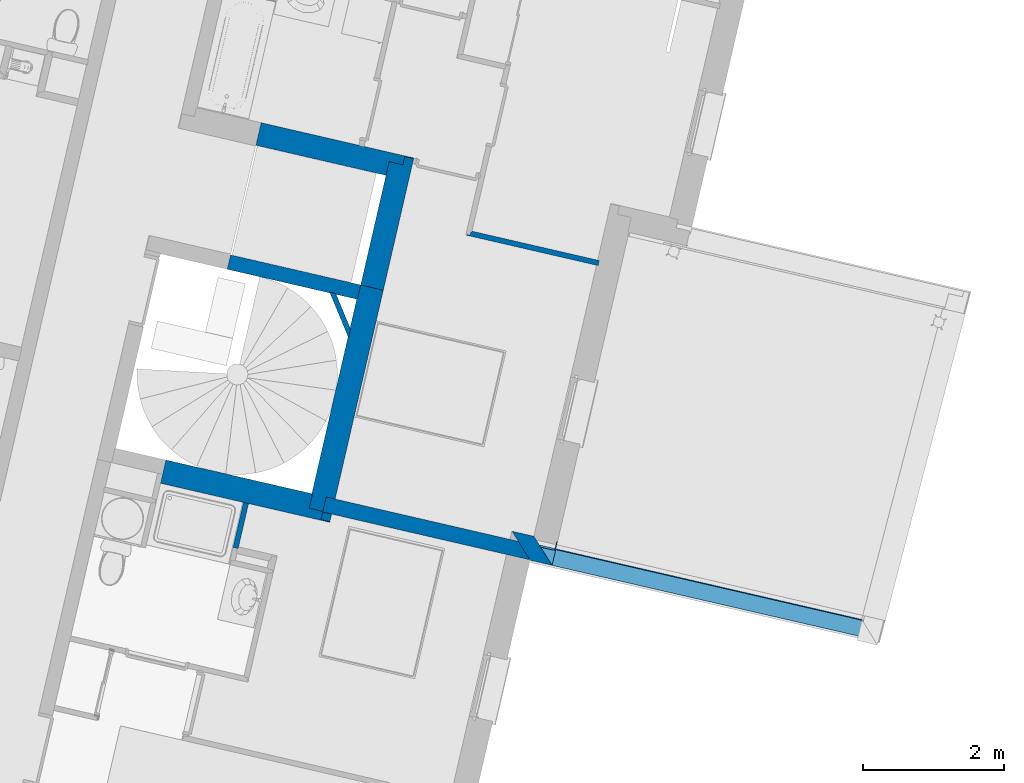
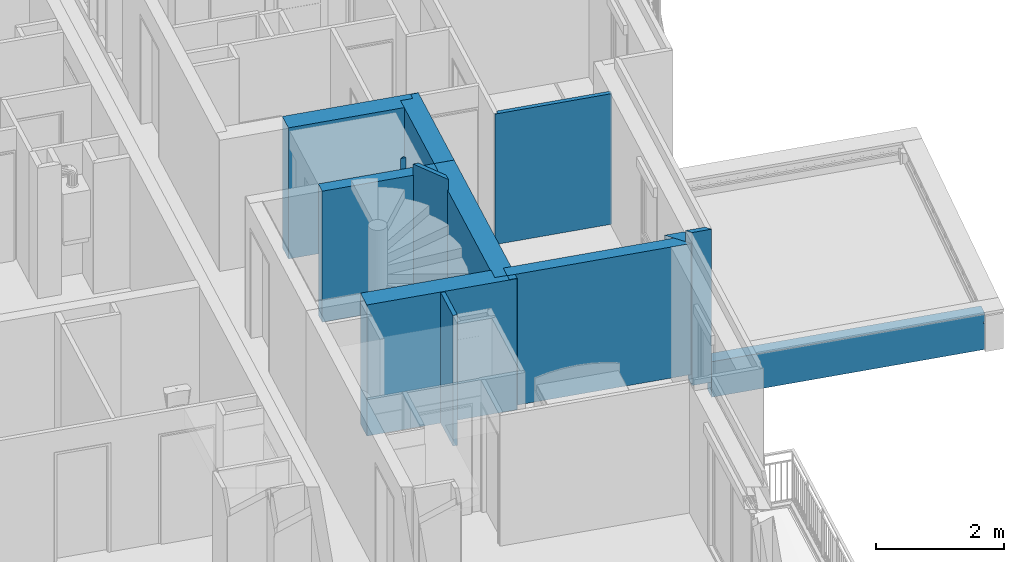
# One storey, part 47 of 90: 11 walls.
"""IFC2X3 building model written with IfcOpenShell, lengths in metres."""

import ifcopenshell
import ifcopenshell.guid

model = None  # the IFC model being written
_history = None  # IfcOwnerHistory: only IFC2X3 demands one
_inside = {}  # id of a spatial element -> (the spatial element, [elements in it])
_under = {}  # id of a project, library or spatial element -> (it, [spatial elements below it])
_declared = {}  # id of a project -> (the project, [libraries it declares])
_typed = {}  # id of a type object -> (the type object, [elements of that type])
_made_of = {}  # id of a material, layer set ... -> (it, [elements and type objects made of it])


def new_model(schema):
    """Start an empty IFC model of exactly this schema.

    Asked for "IFC4X3", IfcOpenShell would pick the latest addendum, in which some entities
    have other attributes; the version numbers below select the first issue.
    IFC2X3 requires an IfcOwnerHistory on every rooted entity: one is made here for all.
    """
    global model, _history
    if schema == "IFC4X3":
        model = ifcopenshell.file(schema_version=(4, 3, 0, 0))
    else:
        model = ifcopenshell.file(schema=schema)
    _inside.clear()
    _under.clear()
    _declared.clear()
    _typed.clear()
    _made_of.clear()
    _history = None
    if model.schema == "IFC2X3":
        org = make("IfcOrganization", Name="unknown")
        user = make(
            "IfcPersonAndOrganization",
            ThePerson=make("IfcPerson", FamilyName="unknown"),
            TheOrganization=org,
        )
        app = make(
            "IfcApplication",
            ApplicationDeveloper=org,
            Version="unknown",
            ApplicationFullName="unknown",
            ApplicationIdentifier="unknown",
        )
        _history = make(
            "IfcOwnerHistory",
            OwningUser=user,
            OwningApplication=app,
            ChangeAction="ADDED",
            CreationDate=0,
        )
    return model


def make(cls, **values):
    """One entity of the class cls with the attributes given. An attribute that is None is left unset."""
    return model.create_entity(
        cls, **{name: value for name, value in values.items() if value is not None}
    )


def entity(cls, *values):
    """Any entity or typed value of the class cls, its attributes in the order of the schema. None: left unset."""
    e = model.create_entity(cls)
    for i, value in enumerate(values):
        if value is not None:
            e[i] = value
    return e


def rooted(cls, **values):
    """An entity with a GlobalId (a new one), such as an element, a storey or a relation."""
    return make(cls, GlobalId=ifcopenshell.guid.new(), OwnerHistory=_history, **values)


def si_unit(unit_type, name, prefix=None):
    """IfcSIUnit, for example si_unit("LENGTHUNIT", "METRE", prefix="MILLI")."""
    return make("IfcSIUnit", UnitType=unit_type, Prefix=prefix, Name=name)


def converted_unit(unit_type, name, factor, base, dimensions=None, offset=None):
    """IfcConversionBasedUnit, such as the inch: factor (a typed value) times the base unit."""
    return make(
        "IfcConversionBasedUnit"
        if offset is None
        else "IfcConversionBasedUnitWithOffset",
        ConversionOffset=offset,
        Dimensions=None
        if dimensions is None
        else entity("IfcDimensionalExponents", *dimensions),
        UnitType=unit_type,
        Name=name,
        ConversionFactor=make(
            "IfcMeasureWithUnit", ValueComponent=factor, UnitComponent=base
        ),
    )


def derived_unit(unit_type, elements):
    """IfcDerivedUnit: a product of units, each with its exponent."""
    return make(
        "IfcDerivedUnit",
        Elements=[
            make("IfcDerivedUnitElement", Unit=unit, Exponent=power)
            for unit, power in elements
        ],
        UnitType=unit_type,
    )


def money_unit(currency):
    """IfcMonetaryUnit."""
    return make("IfcMonetaryUnit", Currency=currency)


def assignment(units):
    """IfcUnitAssignment: the units of a project."""
    return None if units is None else make("IfcUnitAssignment", Units=units)


def point(xyz):
    """IfcCartesianPoint."""
    return None if xyz is None else make("IfcCartesianPoint", Coordinates=xyz)


def direction(xyz):
    """IfcDirection."""
    return None if xyz is None else make("IfcDirection", DirectionRatios=xyz)


def frame(location, z_axis=None, x_axis=None):
    """IfcAxis2Placement3D, a coordinate frame: its origin and axes. An axis left out is left unset."""
    return make(
        "IfcAxis2Placement3D",
        Location=point(location),
        Axis=direction(z_axis),
        RefDirection=direction(x_axis),
    )


def origin_with_axes():
    """The frame at (0, 0, 0) with the z axis (0, 0, 1) and the x axis (1, 0, 0) written out."""
    return frame((0.0, 0.0, 0.0), z_axis=(0.0, 0.0, 1.0), x_axis=(1.0, 0.0, 0.0))


def place(relative_to, where):
    """IfcLocalPlacement: puts the frame where relative to a parent placement (None: the world)."""
    return make(
        "IfcLocalPlacement", PlacementRelTo=relative_to, RelativePlacement=where
    )


def context(
    kind, dimensions, precision=None, world=None, true_north=None, identifier=None
):
    """IfcGeometricRepresentationContext, for example the 3D "Model" context."""
    return make(
        "IfcGeometricRepresentationContext",
        ContextIdentifier=identifier,
        ContextType=kind,
        CoordinateSpaceDimension=dimensions,
        Precision=precision,
        WorldCoordinateSystem=world,
        TrueNorth=true_north,
    )


def subcontext(parent, identifier, kind, view, scale=None):
    """IfcGeometricRepresentationSubContext, for example "Body" below "Model"."""
    return make(
        "IfcGeometricRepresentationSubContext",
        ContextIdentifier=identifier,
        ContextType=kind,
        ParentContext=parent,
        TargetScale=scale,
        TargetView=view,
    )


def project(units=None, contexts=None):
    """IfcProject with its units and contexts."""
    return rooted(
        "IfcProject",
        Name="project",
        RepresentationContexts=contexts,
        UnitsInContext=assignment(units),
    )


def spatial(cls, under=None, at=None, **own):
    """A site, building, storey or space (cls), placed at a placement, below another one or the project."""
    s = rooted(cls, ObjectPlacement=at, **own)
    if under is not None:
        _under.setdefault(under.id(), (under, []))[1].append(s)
    return s


def faces_of(points, faces, orient=None, outer=None):
    """IfcFace entities. A face is a list of loops; a loop is a list of indices into points, from 0.

    orient and outer hold one flag for each loop. By default every Orientation is true, the
    first loop of a face is its IfcFaceOuterBound and the others are IfcFaceBound.
    """
    made = []
    for i, loops in enumerate(faces):
        bounds = []
        for j, loop in enumerate(loops):
            is_outer = j == 0 if outer is None else outer[i][j]
            bounds.append(
                make(
                    "IfcFaceOuterBound" if is_outer else "IfcFaceBound",
                    Bound=make("IfcPolyLoop", Polygon=[points[k] for k in loop]),
                    Orientation=True if orient is None else orient[i][j],
                )
            )
        made.append(make("IfcFace", Bounds=bounds))
    return made


def faceted_brep(points, faces, orient=None, outer=None, voids=None):
    """IfcFacetedBrep: a solid bounded by flat faces; with voids (closed shells), ...WithVoids."""
    shared = [point(p) for p in points]
    hull = make("IfcClosedShell", CfsFaces=faces_of(shared, faces, orient, outer))
    if voids is None:
        return make("IfcFacetedBrep", Outer=hull)
    return make(
        "IfcFacetedBrepWithVoids",
        Outer=hull,
        Voids=[
            make(cls, CfsFaces=faces_of(shared, fs, o, b)) for cls, fs, o, b in voids
        ],
    )


def shape(context_of_items, identifier, shape_type, items):
    """IfcShapeRepresentation: the items that make up one representation, for example the "Body"."""
    return make(
        "IfcShapeRepresentation",
        ContextOfItems=context_of_items,
        RepresentationIdentifier=identifier,
        RepresentationType=shape_type,
        Items=items,
    )


def material(Name=None, Category=None):
    """IfcMaterial."""
    return make("IfcMaterial", Name=Name, Category=Category)


def material_list(materials):
    """IfcMaterialList."""
    return make("IfcMaterialList", Materials=materials)


def made_of(thing, what):
    """Note that an element or type object is made of a material, layer set ...; save() writes the relation."""
    if what is not None:
        _made_of.setdefault(what.id(), (what, []))[1].append(thing)
    return thing


def type_object(cls, material=None, **own):
    """A type object (cls), such as IfcWallType, which elements share."""
    return made_of(rooted(cls, **own), material)


def element(
    cls,
    number,
    at=None,
    inside=None,
    cuts=None,
    type_object=None,
    material=None,
    context=None,
    identifier="Body",
    shape_type=None,
    held_by="IfcProductDefinitionShape",
    body=None,
    shapes=None,
    **own,
):
    """One element of the class cls, such as IfcWall. Its Tag is "e" and its number.

    at: its placement. inside: the storey or other place that contains it. cuts: it is an
    opening in that element (IfcRelVoidsElement). A single representation is given by context,
    identifier, shape_type and body (its items); several are given by shapes. held_by: the class
    of the entity that holds the representations. save() writes the other relations.
    """
    e = rooted(cls, Tag="e%d" % number, ObjectPlacement=at, **own)
    if body is not None:
        shapes = [shape(context, identifier, shape_type, body)]
    if shapes is not None:
        e.Representation = make(held_by, Representations=shapes)
    if inside is not None:
        _inside.setdefault(inside.id(), (inside, []))[1].append(e)
    if cuts is not None:
        rooted(
            "IfcRelVoidsElement", RelatingBuildingElement=cuts, RelatedOpeningElement=e
        )
    if type_object is not None:
        _typed.setdefault(type_object.id(), (type_object, []))[1].append(e)
    return made_of(e, material)


def aggregate(whole, parts):
    """IfcRelAggregates: a whole, such as a stair, and the parts it consists of."""
    return rooted("IfcRelAggregates", RelatingObject=whole, RelatedObjects=parts)


def save(model, path):
    """Write the relations noted so far, then the file.

    IfcRelAggregates (storeys below a building ...), IfcRelContainedInSpatialStructure (elements
    in a storey), IfcRelDefinesByType, IfcRelAssociatesMaterial and IfcRelDeclares: one each for
    every whole, place, type object, material and project.
    """
    for whole, parts in _under.values():
        aggregate(whole, parts)
    for where, things in _inside.values():
        rooted(
            "IfcRelContainedInSpatialStructure",
            RelatedElements=things,
            RelatingStructure=where,
        )
    for kind, things in _typed.values():
        rooted("IfcRelDefinesByType", RelatedObjects=things, RelatingType=kind)
    for what, things in _made_of.values():
        rooted("IfcRelAssociatesMaterial", RelatedObjects=things, RelatingMaterial=what)
    for by, libraries in _declared.values():
        rooted("IfcRelDeclares", RelatingContext=by, RelatedDefinitions=libraries)
    model.write(path)


model = new_model("IFC2X3")

# Units and contexts
model_context = context("Model", 3, precision=1e-05, world=origin_with_axes(), true_north=direction((0.0, 1.0)))
body_context = subcontext(model_context, "Body", "Model", "MODEL_VIEW")
ifc_project = project(units=[si_unit("LENGTHUNIT", "METRE"), si_unit("AREAUNIT", "SQUARE_METRE"), si_unit("VOLUMEUNIT", "CUBIC_METRE"), converted_unit("PLANEANGLEUNIT", "DEGREE", entity("IfcPlaneAngleMeasure", 0.0174532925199), si_unit("PLANEANGLEUNIT", "RADIAN"), dimensions=[0, 0, 0, 0, 0, 0, 0]), si_unit("SOLIDANGLEUNIT", "STERADIAN"), money_unit("EUR"), converted_unit("TIMEUNIT", "Year", entity("IfcTimeMeasure", 31556926.0), si_unit("TIMEUNIT", "SECOND"), dimensions=[0, 0, 1, 0, 0, 0, 0]), si_unit("MASSUNIT", "GRAM", prefix="KILO"), si_unit("THERMODYNAMICTEMPERATUREUNIT", "DEGREE_CELSIUS"), si_unit("LUMINOUSINTENSITYUNIT", "LUMEN"), si_unit("ENERGYUNIT", "JOULE", prefix="MEGA"), derived_unit("THERMALCONDUCTANCEUNIT", [(si_unit("POWERUNIT", "WATT"), 1), (si_unit("LENGTHUNIT", "METRE"), -1), (si_unit("THERMODYNAMICTEMPERATUREUNIT", "KELVIN"), -1)]), derived_unit("SPECIFICHEATCAPACITYUNIT", [(si_unit("ENERGYUNIT", "JOULE"), 1), (si_unit("MASSUNIT", "GRAM", prefix="KILO"), -1), (si_unit("THERMODYNAMICTEMPERATUREUNIT", "KELVIN"), -1)]), derived_unit("MASSDENSITYUNIT", [(si_unit("MASSUNIT", "GRAM", prefix="KILO"), 1), (si_unit("VOLUMEUNIT", "CUBIC_METRE"), -1)])], contexts=[model_context])

# Site, building, storey
site_placement = place(None, origin_with_axes())
site = spatial("IfcSite", under=ifc_project, at=site_placement, Name="Site", CompositionType="ELEMENT")
building_placement = place(site_placement, origin_with_axes())
building = spatial("IfcBuilding", under=site, at=building_placement, Name="Bâtiment", CompositionType="ELEMENT")
storey_placement = place(building_placement, frame((0.0, 0.0, 2.72), z_axis=(0.0, 0.0, 1.0), x_axis=(1.0, 0.0, 0.0)))
storey = spatial("IfcBuildingStorey", under=building, at=storey_placement, Name="R+1", CompositionType="ELEMENT", Elevation=2.72)

# Walls
ifc_material_1 = material(Name="Cloison - Carreaux de plâtre")
wall_type_1 = type_object("IfcWallType", Name="Cloison - Carreaux de plâtre 74", PredefinedType="USERDEFINED")
wall_1_placement = place(storey_placement, frame((-8.31029544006, -6.29006190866, 0.0), z_axis=(0.0, 0.0, 1.0), x_axis=(0.383112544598, -0.92370167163, 0.0)))
element("IfcWall", 1, at=wall_1_placement, inside=storey, type_object=wall_type_1, material=ifc_material_1, Name="Carreaux de plâtre 8cm", ObjectType="PARTITIONING", context=body_context, shape_type="Brep", body=[
    faceted_brep([(0.0, 0.074, 2.72), (1.50750967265e-10, -1.07617026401e-10, 2.72), (0.0528269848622, 0.074, 2.72), (0.0, 0.074, 2.51), (1.50750967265e-10, -1.07617026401e-10, 2.51), (0.0528269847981, 0.0739999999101, 2.51)], [[[0, 1, 2]], [[3, 4, 1, 0]], [[4, 5, 2, 1]], [[0, 2, 5, 3]], [[3, 5, 4]]]),
    faceted_brep([(0.298560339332, 0.074, 2.72), (0.844290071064, 0.0739999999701, 2.72), (0.844290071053, 0.074, 0.0), (0.298560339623, 0.074, 0.0), (0.245733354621, 0.0, 2.72), (0.947949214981, 0.0, 2.72), (0.947949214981, 0.0, 2.51), (0.947949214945, 0.0, 0.0), (0.245733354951, 0.0, 0.0)], [[[0, 1, 2, 3]], [[4, 5, 1, 0]], [[2, 1, 5, 6, 7]], [[2, 7, 8, 3]], [[8, 4, 0, 3]], [[7, 6, 5, 4, 8]]]),
])
ifc_material_2 = material(Name="Finition int - Plaque de plâtre")
ifc_material_3 = material(Name="Isolation - Laine de roche")
ifc_material_list_1 = material_list([ifc_material_2, ifc_material_3, ifc_material_2])
wall_type_2 = type_object("IfcWallType", Name="3 - Cloison 72mm Placostil 74", PredefinedType="USERDEFINED")
wall_2_placement = place(storey_placement, frame((-6.26296169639, -5.63237108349, 0.0), z_axis=(0.0, 0.0, 1.0), x_axis=(0.974387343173, -0.224876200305, 0.0)))
element("IfcWall", 2, at=wall_2_placement, inside=storey, type_object=wall_type_2, material=ifc_material_list_1, Name="Cloison Placostil 72/48", ObjectType="PARTITIONING", context=body_context, shape_type="Brep", body=[
    faceted_brep([(0.0740000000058, -0.013, 2.5), (1.93336082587, -0.013, 2.5), (1.93336082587, 0.0, 2.5), (0.074, 0.0, 2.5), (0.0740000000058, -0.013, 0.0), (1.93336082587, -0.013, 0.0), (1.93336082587, 0.0, 0.0), (0.074, 0.0, 0.0)], [[[0, 1, 2, 3]], [[4, 5, 1, 0]], [[2, 1, 5, 6]], [[3, 2, 6, 7]], [[4, 0, 3, 7]], [[7, 6, 5, 4]]]),
    faceted_brep([(0.061000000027, -0.061, 2.5), (1.93336082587, -0.061, 2.5), (1.93336082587, -0.013, 2.5), (0.0610000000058, -0.013, 2.5), (0.061000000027, -0.061, 0.0), (1.93336082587, -0.061, 0.0), (1.93336082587, -0.013, 0.0), (0.0610000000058, -0.013, 0.0)], [[[0, 1, 2, 3]], [[4, 5, 1, 0]], [[2, 1, 5, 6]], [[3, 2, 6, 7]], [[4, 0, 3, 7]], [[7, 6, 5, 4]]]),
    faceted_brep([(0.0130000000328, -0.074, 2.5), (1.93336082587, -0.074, 2.5), (1.93336082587, -0.061, 2.5), (0.013000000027, -0.061, 2.5), (0.0130000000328, -0.074, 0.0), (1.93336082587, -0.074, 0.0), (1.93336082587, -0.061, 0.0), (0.013000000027, -0.061, 0.0)], [[[0, 1, 2, 3]], [[4, 5, 1, 0]], [[2, 1, 5, 6]], [[3, 2, 6, 7]], [[4, 0, 3, 7]], [[7, 6, 5, 4]]]),
])
wall_3_placement = place(storey_placement, frame((-9.44213676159, -9.50795656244, 0.0), z_axis=(0.0, 0.0, 1.0), x_axis=(-0.224876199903, -0.974387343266, 0.0)))
element("IfcWall", 3, at=wall_3_placement, inside=storey, type_object=wall_type_2, material=ifc_material_list_1, Name="Cloison Placostil 72/48", ObjectType="PARTITIONING", context=body_context, shape_type="Brep", body=[
    faceted_brep([(0.0, 0.074, 0.0), (0.657000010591, 0.074, 0.0), (0.657000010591, 0.061, 0.0), (0.0, 0.061, 0.0), (0.0, 0.074, 2.5), (0.657000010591, 0.074, 2.5), (0.657000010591, 0.061, 2.5), (0.0, 0.061, 2.5)], [[[0, 1, 2, 3]], [[4, 5, 1, 0]], [[2, 1, 5, 6]], [[3, 2, 6, 7]], [[4, 0, 3, 7]], [[7, 6, 5, 4]]]),
    faceted_brep([(0.0, 0.061, 0.0), (0.657000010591, 0.061, 0.0), (0.657000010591, 0.013, 0.0), (0.0, 0.013, 0.0), (0.0, 0.061, 2.5), (0.657000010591, 0.061, 2.5), (0.657000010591, 0.013, 2.5), (0.0, 0.013, 2.5)], [[[0, 1, 2, 3]], [[4, 5, 1, 0]], [[2, 1, 5, 6]], [[3, 2, 6, 7]], [[4, 0, 3, 7]], [[7, 6, 5, 4]]]),
    faceted_brep([(0.0, 0.013, 0.0), (0.657000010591, 0.013, 0.0), (0.657000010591, 0.0, 0.0), (0.0, 0.0, 0.0), (0.0, 0.013, 2.5), (0.657000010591, 0.013, 2.5), (0.657000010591, 0.0, 2.5), (0.0, 0.0, 2.5)], [[[0, 1, 2, 3]], [[4, 5, 1, 0]], [[2, 1, 5, 6]], [[3, 2, 6, 7]], [[4, 0, 3, 7]], [[7, 6, 5, 4]]]),
])
ifc_material_4 = material(Name="Finition int - Enduit plâtre")
ifc_material_5 = material(Name="Béton")
ifc_material_list_2 = material_list([ifc_material_4, ifc_material_5, ifc_material_4])
wall_type_3 = type_object("IfcWallType", Name="2 - Murs Béton 20 + Enduit 2 Faces  220", PredefinedType="USERDEFINED")
wall_4_placement = place(storey_placement, frame((-5.37691703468, -10.3124051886, 0.0), z_axis=(0.0, 0.0, 1.0), x_axis=(-0.974387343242, 0.224876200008, 0.0)))
element("IfcWall", 4, at=wall_4_placement, inside=storey, type_object=wall_type_3, material=ifc_material_list_2, Name="M_Ext-009", ObjectType="SOLIDWALL", context=body_context, shape_type="Brep", body=[
    faceted_brep([(0.0, 0.0, 2.51), (3.01199999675, 0.0, 2.51), (3.01199999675, 0.01, 2.51), (0.0, 0.01, 2.51), (0.0, 0.0, 0.0), (3.01199999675, 0.0, 0.0), (3.01199999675, 0.01, 0.0), (0.0, 0.01, 0.0)], [[[0, 1, 2, 3]], [[4, 5, 1, 0]], [[2, 1, 5, 6]], [[3, 2, 6, 7]], [[4, 0, 3, 7]], [[7, 6, 5, 4]]]),
    faceted_brep([(0.0, -0.2, 2.51), (3.01199999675, -0.2, 2.51), (3.01199999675, 0.0, 2.51), (0.0, 0.0, 2.51), (0.0, -0.2, 0.0), (3.01199999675, -0.2, 0.0), (3.01199999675, 0.0, 0.0), (0.0, 0.0, 0.0)], [[[0, 1, 2, 3]], [[4, 5, 1, 0]], [[2, 1, 5, 6]], [[3, 2, 6, 7]], [[4, 0, 3, 7]], [[7, 6, 5, 4]]]),
    faceted_brep([(0.0, -0.21, 2.51), (3.01199999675, -0.21, 2.51), (3.01199999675, -0.2, 2.51), (0.0, -0.2, 2.51), (0.0, -0.21, 0.0), (3.01199999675, -0.21, 0.0), (3.01199999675, -0.2, 0.0), (0.0, -0.2, 0.0)], [[[0, 1, 2, 3]], [[4, 5, 1, 0]], [[2, 1, 5, 6]], [[3, 2, 6, 7]], [[4, 0, 3, 7]], [[7, 6, 5, 4]]]),
])
ifc_material_list_3 = material_list([ifc_material_4, ifc_material_5])
wall_type_4 = type_object("IfcWallType", Name="2 - Murs Béton 20 + Enduit 1 Face  210", PredefinedType="USERDEFINED")
wall_5_placement = place(storey_placement, frame((-7.77362621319, -6.41391833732, 0.0), z_axis=(0.0, 0.0, 1.0), x_axis=(-0.974387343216, 0.224876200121, 0.0)))
element("IfcWall", 5, at=wall_5_placement, inside=storey, type_object=wall_type_4, material=ifc_material_list_3, Name="M_Ext-009", ObjectType="SOLIDWALL", context=body_context, shape_type="Brep", body=[
    faceted_brep([(0.309940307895, 0.21, 2.51), (0.00999999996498, 0.21, 2.51), (0.00999999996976, 0.2, 2.51), (0.317079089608, 0.2, 2.51), (0.309940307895, 0.21, 0.0), (0.00999999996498, 0.21, 0.0), (0.00999999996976, 0.2, 0.0), (0.317079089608, 0.2, 0.0)], [[[0, 1, 2, 3]], [[4, 5, 1, 0]], [[5, 6, 2, 1]], [[3, 2, 6, 7]], [[4, 0, 3, 7]], [[7, 6, 5, 4]]]),
    faceted_brep([(1.90000000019, 0.21, 2.51), (0.400861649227, 0.21, 2.51), (0.408000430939, 0.2, 2.51), (1.90000000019, 0.2, 2.51), (1.90000000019, 0.21, 0.0), (0.400861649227, 0.21, 0.0), (0.408000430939, 0.2, 0.0), (1.90000000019, 0.2, 0.0)], [[[0, 1, 2, 3]], [[4, 5, 1, 0]], [[5, 6, 2, 1]], [[3, 2, 6, 7]], [[0, 3, 7, 4]], [[7, 6, 5, 4]]]),
    faceted_brep([(1.90000000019, 0.2, 2.51), (0.0, 0.2, 2.51), (0.0, 1.43974077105e-09, 2.51), (1.90000000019, 0.0, 2.51), (1.90000000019, 0.2, 0.0), (0.0, 0.2, 0.0), (0.0, 4.93002083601e-10, 0.0), (1.90000000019, 0.0, 0.0)], [[[0, 1, 2, 3]], [[4, 5, 1, 0]], [[6, 2, 1, 5]], [[3, 2, 6, 7]], [[0, 3, 7, 4]], [[7, 6, 5, 4]]]),
])
ifc_material_6 = material(Name="Isolation - Polystyrène extrudé")
ifc_material_list_4 = material_list([ifc_material_2, ifc_material_6, ifc_material_5, ifc_material_4])
wall_type_5 = type_object("IfcWallType", Name="2 - Murs Béton 20 + Isolant 120 + Enduit 1 Faces 340", PredefinedType="USERDEFINED")
wall_6_placement = place(storey_placement, frame((-7.77362621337, -6.41391833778, 0.0), z_axis=(0.0, 0.0, 1.0), x_axis=(-0.224876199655, -0.974387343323, 0.0)))
element("IfcWall", 6, at=wall_6_placement, inside=storey, type_object=wall_type_5, material=ifc_material_list_4, Name="M_Ext-008", ObjectType="SOLIDWALL", context=body_context, shape_type="Brep", body=[
    faceted_brep([(3.38999999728, 0.32, 0.0), (0.0, 0.32, 0.0), (0.0, 0.33, 0.0), (3.38999999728, 0.33, 0.0), (3.38999999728, 0.32, 2.51), (0.0, 0.32, 2.51), (0.0, 0.33, 2.51), (3.38999999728, 0.33, 2.51)], [[[0, 1, 2, 3]], [[4, 5, 1, 0]], [[1, 5, 6, 2]], [[3, 2, 6, 7]], [[7, 4, 0, 3]], [[7, 6, 5, 4]]]),
    faceted_brep([(3.37999999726, 0.2, 0.0), (0.0, 0.2, 0.0), (0.0, 0.32, 0.0), (3.37999999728, 0.32, 0.0), (3.37999999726, 0.2, 2.51), (0.0, 0.2, 2.51), (0.0, 0.32, 2.51), (3.37999999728, 0.32, 2.51)], [[[0, 1, 2, 3]], [[4, 5, 1, 0]], [[1, 5, 6, 2]], [[3, 2, 6, 7]], [[7, 4, 0, 3]], [[7, 6, 5, 4]]]),
    faceted_brep([(3.25999999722, 0.0, 0.0), (0.0, 0.0, 0.0), (0.0, 0.2, 0.0), (3.25999999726, 0.2, 0.0), (3.25999999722, 0.0, 2.51), (0.0, 0.0, 2.51), (0.0, 0.2, 2.51), (3.25999999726, 0.2, 2.51)], [[[0, 1, 2, 3]], [[4, 5, 1, 0]], [[1, 5, 6, 2]], [[3, 2, 6, 7]], [[7, 4, 0, 3]], [[7, 6, 5, 4]]]),
    faceted_brep([(0.644164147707, 0.0, 0.0), (0.199999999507, 0.0, 0.0), (0.199999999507, 0.0, 2.51), (0.644164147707, 0.0, 2.51), (0.630156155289, -0.01, 0.0), (0.199999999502, -0.01, 0.0), (0.199999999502, -0.01, 2.51), (0.630156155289, -0.01, 2.51)], [[[0, 1, 2, 3]], [[4, 5, 1, 0]], [[5, 6, 2, 1]], [[3, 2, 6, 7]], [[3, 7, 4, 0]], [[7, 6, 5, 4]]]),
    faceted_brep([(0.757518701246, -0.01, 0.0), (0.771526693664, 0.0, 0.0), (3.05999999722, 0.0, 0.0), (3.05999999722, -0.01, 0.0), (0.757518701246, -0.01, 2.51), (0.771526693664, 0.0, 2.51), (3.05999999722, 0.0, 2.51), (3.05999999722, -0.01, 2.51)], [[[0, 1, 2, 3]], [[1, 0, 4, 5]], [[1, 5, 6, 2]], [[7, 3, 2, 6]], [[4, 0, 3, 7]], [[5, 4, 7, 6]]]),
])
wall_7_placement = place(storey_placement, frame((-8.46174738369, -9.39554360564, 0.0), z_axis=(0.0, 0.0, 1.0), x_axis=(-0.974387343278, 0.224876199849, 0.0)))
element("IfcWall", 7, at=wall_7_placement, inside=storey, type_object=wall_type_5, material=ifc_material_list_4, Name="M_Ext-008", ObjectType="SOLIDWALL", context=body_context, shape_type="Brep", body=[
    faceted_brep([(-0.320000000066, 0.33, 0.0), (2.13999999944, 0.33, 0.0), (2.13999999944, 0.32, 0.0), (-0.320000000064, 0.32, 0.0), (-0.320000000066, 0.33, 2.51), (2.13999999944, 0.33, 2.51), (2.13999999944, 0.32, 2.51), (-0.320000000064, 0.32, 2.51)], [[[0, 1, 2, 3]], [[4, 5, 1, 0]], [[2, 1, 5, 6]], [[3, 2, 6, 7]], [[4, 0, 3, 7]], [[7, 6, 5, 4]]]),
    faceted_brep([(-0.200000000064, 0.32, 0.0), (2.13999999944, 0.32, 0.0), (2.13999999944, 0.2, 0.0), (-0.20000000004, 0.2, 0.0), (-0.200000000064, 0.32, 2.51), (2.13999999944, 0.32, 2.51), (2.13999999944, 0.2, 2.51), (-0.20000000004, 0.2, 2.51)], [[[0, 1, 2, 3]], [[4, 5, 1, 0]], [[2, 1, 5, 6]], [[3, 2, 6, 7]], [[4, 0, 3, 7]], [[7, 6, 5, 4]]]),
    faceted_brep([(0.0, 0.2, 0.0), (2.13999999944, 0.2, 0.0), (2.13999999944, 0.0, 0.0), (0.0, 0.0, 0.0), (0.0, 0.2, 2.51), (2.13999999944, 0.2, 2.51), (2.13999999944, 0.0, 2.51), (0.0, 0.0, 2.51)], [[[0, 1, 2, 3]], [[4, 5, 1, 0]], [[2, 1, 5, 6]], [[3, 2, 6, 7]], [[4, 0, 3, 7]], [[7, 6, 5, 4]]]),
    faceted_brep([(0.01, 0.0, 0.0), (2.13999999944, 0.0, 0.0), (2.13999999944, -0.01, 0.0), (0.010000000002, -0.01, 0.0), (0.01, 0.0, 2.51), (2.13999999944, 0.0, 2.51), (2.13999999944, -0.01, 2.51), (0.010000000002, -0.01, 2.51)], [[[0, 1, 2, 3]], [[4, 5, 1, 0]], [[2, 1, 5, 6]], [[3, 2, 6, 7]], [[4, 0, 3, 7]], [[7, 6, 5, 4]]]),
])
ifc_material_list_5 = material_list([ifc_material_2, ifc_material_6, ifc_material_5])
wall_type_6 = type_object("IfcWallType", Name="2 - Murs Béton 20 + Isolant 120 330", PredefinedType="USERDEFINED")
wall_8_placement = place(storey_placement, frame((-7.41382429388, -4.85489858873, 0.0), z_axis=(0.0, 0.0, 1.0), x_axis=(-0.224876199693, -0.974387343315, 0.0)))
element("IfcWall", 8, at=wall_8_placement, inside=storey, type_object=wall_type_6, material=ifc_material_list_5, Name="M_Ext-008", ObjectType="SOLIDWALL", context=body_context, shape_type="Brep", body=[
    faceted_brep([(-0.330000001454, 0.32, 0.0), (-0.330000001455, 0.33, 0.0), (1.6000000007, 0.33, 0.0), (1.6000000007, 0.32, 0.0), (-0.330000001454, 0.32, 2.51), (-0.330000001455, 0.33, 2.51), (1.6000000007, 0.33, 2.51), (1.6000000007, 0.32, 2.51)], [[[0, 1, 2, 3]], [[1, 0, 4, 5]], [[1, 5, 6, 2]], [[7, 3, 2, 6]], [[4, 0, 3, 7]], [[5, 4, 7, 6]]]),
    faceted_brep([(-0.320000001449, 0.2, 0.0), (-0.320000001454, 0.32, 0.0), (1.6000000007, 0.32, 0.0), (1.6000000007, 0.2, 0.0), (-0.320000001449, 0.2, 2.51), (-0.320000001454, 0.32, 2.51), (1.6000000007, 0.32, 2.51), (1.6000000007, 0.2, 2.51)], [[[0, 1, 2, 3]], [[1, 0, 4, 5]], [[1, 5, 6, 2]], [[7, 3, 2, 6]], [[4, 0, 3, 7]], [[5, 4, 7, 6]]]),
    faceted_brep([(1.6000000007, 0.0, 0.0), (-0.20000000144, 0.0, 0.0), (-0.200000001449, 0.2, 0.0), (1.6000000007, 0.2, 0.0), (1.6000000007, 0.0, 2.51), (-0.20000000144, 0.0, 2.51), (-0.200000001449, 0.2, 2.51), (1.6000000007, 0.2, 2.51)], [[[0, 1, 2, 3]], [[4, 5, 1, 0]], [[6, 2, 1, 5]], [[3, 2, 6, 7]], [[7, 4, 0, 3]], [[7, 6, 5, 4]]]),
])
ifc_material_list_6 = material_list([ifc_material_5, ifc_material_6, ifc_material_2])
wall_9_placement = place(storey_placement, frame((-7.41382429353, -4.85489858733, 0.0), z_axis=(0.0, 0.0, 1.0), x_axis=(-0.974387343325, 0.224876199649, 0.0)))
element("IfcWall", 9, at=wall_9_placement, inside=storey, type_object=wall_type_6, material=ifc_material_list_6, Name="M_Ext-008", ObjectType="SOLIDWALL", context=body_context, shape_type="Brep", body=[
    faceted_brep([(0.0, -0.2, 2.51), (1.90000000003, -0.2, 2.51), (1.90000000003, 0.0, 2.51), (0.0, 0.0, 2.51), (0.0, -0.2, 0.0), (1.90000000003, -0.2, 0.0), (1.90000000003, 0.0, 0.0), (0.0, 0.0, 0.0)], [[[0, 1, 2, 3]], [[4, 5, 1, 0]], [[2, 1, 5, 6]], [[3, 2, 6, 7]], [[4, 0, 3, 7]], [[7, 6, 5, 4]]]),
    faceted_brep([(-0.199999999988, -0.32, 2.51), (1.90000000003, -0.32, 2.51), (1.90000000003, -0.2, 2.51), (-0.199999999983, -0.2, 2.51), (-0.199999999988, -0.32, 0.0), (1.90000000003, -0.32, 0.0), (1.90000000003, -0.2, 0.0), (-0.199999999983, -0.2, 0.0)], [[[0, 1, 2, 3]], [[4, 5, 1, 0]], [[2, 1, 5, 6]], [[3, 2, 6, 7]], [[4, 0, 3, 7]], [[7, 6, 5, 4]]]),
    faceted_brep([(-0.319999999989, -0.33, 2.51), (1.90000000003, -0.33, 2.51), (1.90000000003, -0.32, 2.51), (-0.319999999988, -0.32, 2.51), (-0.319999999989, -0.33, 0.0), (1.90000000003, -0.33, 0.0), (1.90000000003, -0.32, 0.0), (-0.319999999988, -0.32, 0.0)], [[[0, 1, 2, 3]], [[4, 5, 1, 0]], [[2, 1, 5, 6]], [[3, 2, 6, 7]], [[4, 0, 3, 7]], [[7, 6, 5, 4]]]),
])
ifc_material_7 = material(Name="Finition ext - Crépis")
ifc_material_8 = material(Name="Etanchéité - Bitume")
ifc_material_9 = material(Name="Métal - Aluminium")
ifc_material_list_7 = material_list([ifc_material_7, ifc_material_5, ifc_material_8, ifc_material_7, ifc_material_9])
wall_type_7 = type_object("IfcWallType", Name="Acrotère pour plancher 20 isolé 242 x 680", PredefinedType="USERDEFINED")
wall_10_placement = place(storey_placement, frame((-0.403715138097, -11.4604920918, -0.5), z_axis=(0.0, 0.0, 1.0), x_axis=(-0.974387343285, 0.224876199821, 0.0)))
element("IfcWall", 10, at=wall_10_placement, inside=storey, type_object=wall_type_7, material=ifc_material_list_7, Name="Muret béton 20cm", ObjectType="PARAPET", context=body_context, shape_type="Brep", body=[
    faceted_brep([(4.76642056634, 0.015, 0.680000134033), (0.28053162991, 0.015, 0.680000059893), (0.280110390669, -1.16845733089e-09, 0.680000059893), (4.76642056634, -1.16845555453e-09, 0.680000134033), (0.281577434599, 0.0149999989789, 0.576542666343), (0.280531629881, 0.0149999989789, 0.576542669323), (4.76642056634, 0.0149999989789, 0.576542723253), (4.76642056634, 0.0149999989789, 0.537144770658), (4.76642056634, 0.0149999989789, 0.527853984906), (4.76642056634, 0.0149999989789, 0.5), (4.76642056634, 0.0149999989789, 0.0), (0.280531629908, 0.01499999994, 0.0), (0.280531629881, 0.0149999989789, 0.310502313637), (0.280531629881, 0.0149999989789, 0.499786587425), (0.290535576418, 0.0149999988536, 0.499786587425), (0.306792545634, 0.0149999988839, 0.499786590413), (0.308027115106, 0.0149999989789, 0.499786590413), (0.308027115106, 0.0149999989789, 0.527853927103), (0.308027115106, 0.0149999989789, 0.530110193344), (0.285108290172, 0.0149999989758, 0.537144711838), (0.281577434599, 0.0149999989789, 0.538228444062), (0.280110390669, -1.16845733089e-09, 0.576542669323), (0.281156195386, -1.16845733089e-09, 0.576542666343), (0.281156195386, -1.16845733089e-09, 0.538228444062), (0.284687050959, -1.17161036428e-09, 0.537144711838), (0.307605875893, -1.16845910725e-09, 0.530110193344), (0.307605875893, -1.16845910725e-09, 0.527853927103), (0.307605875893, -1.16845910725e-09, 0.499786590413), (0.306371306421, -1.26351196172e-09, 0.499786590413), (0.290114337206, -1.2938166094e-09, 0.499786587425), (0.280110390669, -1.16845733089e-09, 0.499786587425), (0.280110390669, -1.16845733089e-09, 0.310502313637), (0.280110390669, -1.16845733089e-09, 0.0), (4.76642056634, -1.16845733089e-09, 0.0), (4.76642056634, -1.16845555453e-09, 0.5), (4.76642056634, -1.16845555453e-09, 0.527853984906), (4.76642056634, -1.16845555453e-09, 0.537144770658), (4.76642056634, -1.16845555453e-09, 0.576542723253)], [[[0, 1, 2, 3]], [[4, 5, 1, 0, 6, 7, 8, 9, 10, 11, 12, 13, 14, 15, 16, 17, 18, 19, 20]], [[5, 21, 2, 1]], [[3, 2, 21, 22, 23, 24, 25, 26, 27, 28, 29, 30, 31, 32, 33, 34, 35, 36, 37]], [[6, 0, 3, 37]], [[22, 21, 5, 4]], [[7, 6, 37, 36]], [[8, 7, 36, 35]], [[9, 8, 35, 34]], [[10, 9, 34, 33]], [[33, 32, 11, 10]], [[32, 31, 12, 11]], [[31, 30, 13, 12]], [[30, 29, 14, 13]], [[29, 28, 15, 14]], [[16, 15, 28, 27]], [[27, 26, 17, 16]], [[17, 26, 25, 18]], [[25, 24, 19, 18]], [[19, 24, 23, 20]], [[20, 23, 22, 4]]]),
    faceted_brep([(4.78142056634, -0.199999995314, 0.680000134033), (4.78142056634, 0.0, 0.680000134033), (0.280110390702, 0.0, 0.680000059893), (0.274493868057, -0.199999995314, 0.680000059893), (4.78142056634, -0.199999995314, 0.576542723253), (4.78142056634, 0.0, 0.576542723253), (0.281156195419, 0.0, 0.538228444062), (0.281156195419, 0.0, 0.576542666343), (0.280110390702, 0.0, 0.576542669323), (4.78142056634, 0.0, 0.537144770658), (4.78142056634, 0.0, 0.527853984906), (4.78142056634, 0.0, 0.5), (4.76642056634, 0.0, 0.5), (4.76642056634, 0.0, 0.0), (0.280110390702, 0.0, 0.0), (0.280110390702, 0.0, 0.310502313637), (0.280110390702, 0.0, 0.499786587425), (0.290114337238, -1.25359278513e-10, 0.499786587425), (0.306371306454, 0.0, 0.499786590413), (0.307605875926, 0.0, 0.499786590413), (0.307605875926, 0.0, 0.527853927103), (0.307605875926, 0.0, 0.530110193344), (0.284687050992, 0.0, 0.537144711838), (0.274493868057, -0.199999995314, 0.576542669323), (0.275539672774, -0.199999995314, 0.576542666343), (0.275539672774, -0.199999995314, 0.538228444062), (0.279070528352, -0.199999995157, 0.537144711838), (4.78142056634, -0.199999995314, 0.537144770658), (4.78142056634, -0.199999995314, 0.527853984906), (4.78142056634, -0.199999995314, 0.5), (4.76642056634, -0.199999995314, 0.5), (4.76642056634, -0.200000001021, 0.0), (4.76642056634, -0.200000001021, 0.310502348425), (0.274493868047, -0.199999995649, 0.0), (0.274493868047, -0.199999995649, 0.310502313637), (0.274493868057, -0.199999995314, 0.499786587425), (0.284497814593, -0.199999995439, 0.499786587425), (0.300754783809, -0.199999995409, 0.499786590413), (0.301989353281, -0.199999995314, 0.499786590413), (0.301989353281, -0.199999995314, 0.527853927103), (0.301989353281, -0.199999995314, 0.530110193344)], [[[0, 1, 2, 3]], [[4, 5, 1, 0]], [[6, 7, 8, 2, 1, 5, 9, 10, 11, 12, 13, 14, 15, 16, 17, 18, 19, 20, 21, 22]], [[2, 8, 23, 3]], [[4, 0, 3, 23, 24, 25, 26, 27]], [[27, 9, 5, 4]], [[7, 6, 25, 24]], [[7, 24, 23, 8]], [[28, 10, 9, 27]], [[29, 11, 10, 28]], [[30, 12, 11, 29]], [[31, 13, 12, 30, 32]], [[13, 31, 33, 14]], [[14, 33, 34, 15]], [[15, 34, 35, 16]], [[16, 35, 36, 17]], [[17, 36, 37, 18]], [[38, 19, 18, 37]], [[19, 38, 39, 20]], [[21, 20, 39, 40]], [[21, 40, 26, 22]], [[6, 22, 26, 25]], [[27, 26, 40, 39, 28]], [[28, 39, 38, 37, 36, 35, 34, 32, 30, 29]], [[31, 32, 34, 33]]]),
    faceted_brep([(4.78142056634, -0.209999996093, 0.5), (4.78142056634, -0.209999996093, 0.527853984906), (0.30170852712, -0.209999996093, 0.527853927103), (0.301708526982, -0.210000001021, 0.499786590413), (0.30047395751, -0.210000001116, 0.499786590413), (0.284216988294, -0.210000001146, 0.499786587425), (0.28421698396, -0.209999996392, 0.310502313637), (4.76642056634, -0.210000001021, 0.310502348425), (4.76642056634, -0.210000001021, 0.499786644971), (4.76642056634, -0.209999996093, 0.5), (4.78142056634, -0.199999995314, 0.5), (4.78142056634, -0.199999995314, 0.527853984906), (0.301989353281, -0.199999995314, 0.527853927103), (0.301989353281, -0.199999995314, 0.499786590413), (0.300754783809, -0.199999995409, 0.499786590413), (0.284497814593, -0.199999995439, 0.499786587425), (0.28449781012, -0.199999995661, 0.310502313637), (4.76642056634, -0.200000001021, 0.310502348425), (4.76642056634, -0.199999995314, 0.5)], [[[0, 1, 2, 3, 4, 5, 6, 7, 8, 9]], [[0, 10, 11, 1]], [[1, 11, 12, 2]], [[12, 13, 3, 2]], [[3, 13, 14, 4]], [[15, 5, 4, 14]], [[16, 6, 5, 15]], [[17, 7, 6, 16]], [[7, 17, 18, 9, 8]], [[9, 18, 10, 0]], [[15, 14, 13, 12, 11, 10, 18, 17, 16]]]),
    faceted_brep([(0.274493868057, -0.199999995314, 0.680000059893), (0.274072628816, -0.214999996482, 0.680000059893), (4.76642056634, -0.214999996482, 0.680000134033), (4.76642056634, -0.199999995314, 0.680000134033), (0.274072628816, -0.214999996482, 0.576542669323), (0.274493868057, -0.199999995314, 0.576542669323), (0.274464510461, -0.201045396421, 0.576542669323), (4.76642056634, -0.214999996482, 0.576542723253), (4.76642056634, -0.201045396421, 0.576542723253), (4.76642056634, -0.199999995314, 0.576542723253)], [[[0, 1, 2, 3]], [[4, 1, 0, 5, 6]], [[1, 4, 7, 2]], [[3, 2, 7, 8, 9]], [[5, 0, 3, 9]], [[6, 5, 9, 8]], [[4, 6, 8, 7]]]),
    faceted_brep([(0.275539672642, -0.2, 0.576542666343), (0.275510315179, -0.201045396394, 0.576542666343), (5.11142055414, -0.201045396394, 0.576542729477), (5.11142055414, -0.2, 0.576542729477), (0.275510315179, -0.201045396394, 0.538228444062), (0.275539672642, -0.2, 0.538228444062), (5.11142055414, -0.201045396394, 0.538228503), (5.11142055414, -0.227484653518, 0.530110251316), (5.11142055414, -0.22748465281, 0.5), (5.11142055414, -0.226250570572, 0.5), (5.11142055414, -0.226250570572, 0.528993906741), (5.11142055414, -0.2, 0.537144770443), (0.27907052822, -0.199999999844, 0.537144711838), (0.278942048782, -0.204575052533, 0.537144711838), (0.301217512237, -0.227484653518, 0.530110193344), (0.301217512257, -0.22748465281, 0.527853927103), (0.301217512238, -0.227484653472, 0.499786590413), (4.76642056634, -0.22748465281, 0.499786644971), (4.76642056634, -0.22748465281, 0.5), (4.76642056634, -0.226250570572, 0.5), (0.301252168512, -0.226250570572, 0.527853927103), (0.301252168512, -0.226250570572, 0.528993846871), (4.76642056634, -0.226250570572, 0.499786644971), (0.301252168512, -0.226250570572, 0.499786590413), (0.301353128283, -0.222655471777, 0.530110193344)], [[[0, 1, 2, 3]], [[4, 1, 0, 5]], [[1, 4, 6, 2]], [[7, 8, 9, 10, 11, 3, 2, 6]], [[5, 0, 3, 11, 12]], [[13, 4, 5, 12]], [[4, 13, 14, 7, 6]], [[14, 15, 16, 17, 18, 8, 7]], [[9, 8, 18, 19]], [[20, 21, 10, 9, 19, 22, 23]], [[24, 12, 11, 10, 21]], [[13, 12, 24, 14]], [[15, 14, 24, 21, 20]], [[15, 20, 23, 16]], [[16, 23, 22, 17]], [[19, 18, 17, 22]]]),
])
ifc_material_10 = material(Name="Béton cellulaire")
ifc_material_11 = material(Name="Mortier")
ifc_material_12 = material(Name="Isolation - Polystyrène expansé")
ifc_material_13 = material(Name="Bloc ELITHERM")
ifc_material_list_8 = material_list([ifc_material_7, ifc_material_10, ifc_material_11, ifc_material_12, ifc_material_13, ifc_material_6, ifc_material_2])
wall_type_8 = type_object("IfcWallType", Name="Mur ALKERN + planelle 21 345 x 2930", PredefinedType="USERDEFINED")
wall_11_placement = place(storey_placement, frame((-5.05135470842, -10.4029351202, -0.21), z_axis=(0.0, 0.0, 1.0), x_axis=(-0.974387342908, 0.224876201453, 0.0)))
element("IfcWall", 11, at=wall_11_placement, inside=storey, type_object=wall_type_8, material=ifc_material_list_8, Name="Mue bloc ALKERN isolé", ObjectType="SOLIDWALL", context=body_context, shape_type="Brep", body=[
    faceted_brep([(7.00355640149e-09, 1.26660015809e-08, 2.93), (0.0150000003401, -0.014999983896, 2.93), (0.337581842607, -0.0149999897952, 2.93), (0.322581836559, 1.26659998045e-08, 2.93), (7.0035559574e-09, 1.26659998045e-08, 0.21), (0.0150000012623, -0.0149999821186, 0.21), (0.322581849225, -0.0149999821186, 0.0), (0.322581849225, -0.0149999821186, 0.210000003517), (0.337581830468, -0.0149999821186, 0.21), (7.02837654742e-09, -0.0149999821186, 0.21), (0.0, -0.0149999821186, 0.0), (0.322581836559, 1.26659998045e-08, 0.21), (0.322581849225, -1.70338054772e-09, 0.0), (0.0, -1.70338054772e-09, 0.0)], [[[0, 1, 2, 3]], [[4, 5, 1, 0]], [[6, 7, 8, 2, 1, 5, 9, 10]], [[2, 8, 11, 3]], [[4, 0, 3, 11, 12, 13]], [[9, 5, 4]], [[12, 11, 7, 6]], [[8, 7, 11]], [[13, 10, 9, 4]], [[10, 13, 12, 6]]]),
    faceted_brep([(0.385581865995, -0.0630000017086, 2.93), (0.337581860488, -0.0150000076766, 2.93), (0.0150000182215, -0.0150000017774, 2.93), (0.0630000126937, -0.0630000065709, 2.93), (0.337581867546, -0.015, 2.72999998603), (0.385581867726, -0.0629999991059, 2.72999998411), (0.0150000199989, -0.015, 2.72999999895), (0.0630000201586, -0.0629999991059, 2.72999999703)], [[[0, 1, 2, 3]], [[4, 1, 0, 5]], [[1, 4, 6, 2]], [[3, 2, 6, 7]], [[5, 0, 3, 7]], [[4, 5, 7, 6]]]),
    faceted_brep([(0.405581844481, -0.0829999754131, 2.72999998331), (0.337581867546, -0.015, 2.72999998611), (0.0150000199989, -0.015, 2.72999999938), (0.0829999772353, -0.0829999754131, 2.73000002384), (0.337581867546, -0.015, 2.72000000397), (0.405581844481, -0.0830000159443, 2.72000000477), (0.0150000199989, -0.015, 2.72000000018), (0.0830000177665, -0.0830000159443, 2.72000000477)], [[[0, 1, 2, 3]], [[4, 1, 0, 5]], [[1, 4, 6, 2]], [[3, 2, 6, 7]], [[5, 0, 3, 7]], [[4, 5, 7, 6]]]),
    faceted_brep([(0.0829999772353, -0.0829999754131, 2.93), (0.405581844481, -0.0829999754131, 2.93), (0.385581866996, -0.0630000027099, 2.93), (0.063000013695, -0.0630000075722, 2.93), (0.0829999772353, -0.0829999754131, 2.73000002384), (0.405581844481, -0.0829999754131, 2.72999998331), (0.385581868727, -0.0630000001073, 2.72999998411), (0.06300002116, -0.0630000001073, 2.72999999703)], [[[0, 1, 2, 3]], [[4, 5, 1, 0]], [[5, 6, 2, 1]], [[3, 2, 6, 7]], [[4, 0, 3, 7]], [[7, 6, 5, 4]]]),
    faceted_brep([(0.0, -0.21467339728, 0.0), (0.0, -0.21467339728, 0.0100000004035), (3.5044367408e-10, -0.215000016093, 0.0100000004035), (7.35931493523e-09, -0.215000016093, 0.21), (7.02837565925e-09, -0.015, 0.21), (0.0, -0.015, 0.0), (0.0149999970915, -0.214673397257, 0.0), (0.0149999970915, -0.214673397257, 0.0100000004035), (0.0149999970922, -0.215000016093, 0.0100000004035), (0.0149999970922, -0.215000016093, 0.0), (0.322581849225, -0.215000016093, 0.0), (0.322581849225, -0.215000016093, 0.210000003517), (0.537581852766, -0.215000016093, 0.21), (0.537581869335, -0.215000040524, 2.72000000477), (0.215000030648, -0.215000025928, 2.72000000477), (0.215000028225, -0.215000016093, 0.21), (0.0150000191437, -0.015, 0.21), (0.0150000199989, -0.015, 2.71999999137), (0.337581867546, -0.015, 2.71999999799), (0.337581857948, -0.0150000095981, 0.21), (0.322581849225, -0.015, 0.210000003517), (0.322581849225, -0.015, 0.0), (0.405581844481, -0.0830000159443, 2.72000000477), (0.0830000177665, -0.0830000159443, 2.72000000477)], [[[0, 1, 2, 3, 4, 5]], [[1, 0, 6, 7]], [[8, 2, 1, 7]], [[8, 9, 10, 11, 12, 13, 14, 15, 3, 2]], [[15, 16, 4, 3]], [[16, 17, 18, 19, 20, 21, 5, 4]], [[6, 0, 5, 21, 10, 9]], [[9, 8, 7, 6]], [[21, 20, 11, 10]], [[11, 20, 19, 12]], [[13, 12, 19, 18, 22]], [[23, 14, 13, 22]], [[15, 14, 23, 17, 16]], [[17, 23, 22, 18]]]),
    faceted_brep([(0.537581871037, -0.215000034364, 0.21), (0.322581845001, -0.215000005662, 0.21), (0.215000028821, -0.215000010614, 0.21), (0.215000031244, -0.215000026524, 2.72000000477), (0.537581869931, -0.21500004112, 2.72000000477), (0.335000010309, -0.335000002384, 0.21), (0.322581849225, -0.322581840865, 0.21), (0.65758183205, -0.335000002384, 0.21), (0.335000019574, -0.335000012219, 2.72000000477), (0.657581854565, -0.335000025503, 2.72000000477)], [[[0, 1, 2, 3, 4]], [[5, 6, 1, 0, 7]], [[1, 6, 2]], [[3, 2, 6, 5, 8]], [[4, 3, 8, 9]], [[4, 9, 7, 0]], [[9, 8, 5, 7]]]),
    faceted_brep([(0.014999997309, -0.335000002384, 0.0200000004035), (0.014999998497, -0.335000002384, 0.21000000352), (7.55787921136e-09, -0.335000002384, 0.21), (7.19797554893e-10, -0.335000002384, 0.0200000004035), (0.0149999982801, -0.215000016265, 0.21), (0.0149999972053, -0.215000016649, 0.0200000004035), (7.35931582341e-09, -0.215000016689, 0.21), (7.00887792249e-10, -0.215000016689, 0.0200000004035)], [[[0, 1, 2, 3]], [[4, 1, 0, 5]], [[1, 4, 6, 2]], [[6, 7, 3, 2]], [[5, 0, 3, 7]], [[4, 5, 7, 6]]]),
    faceted_brep([(0.0149999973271, -0.344999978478, 0.0200000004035), (0.014999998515, -0.344999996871, 0.210000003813), (7.5744268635e-09, -0.344999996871, 0.21), (7.21374071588e-10, -0.34499998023, 0.0200000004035), (0.014999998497, -0.335000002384, 0.21000000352), (0.014999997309, -0.335000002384, 0.0200000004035), (7.55787921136e-09, -0.335000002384, 0.21), (7.19797554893e-10, -0.335000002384, 0.0200000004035)], [[[0, 1, 2, 3]], [[4, 1, 0, 5]], [[1, 4, 6, 2]], [[6, 7, 3, 2]], [[5, 0, 3, 7]], [[4, 5, 7, 6]]]),
    faceted_brep([(0.335000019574, -0.335000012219, 2.72000000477), (0.345000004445, -0.344999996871, 2.72000000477), (0.667581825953, -0.344999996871, 2.72000000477), (0.657581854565, -0.335000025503, 2.72000000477), (0.335000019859, -0.335000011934, 0.21), (0.345000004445, -0.344999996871, 0.21), (0.667581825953, -0.344999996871, 0.21), (0.657581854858, -0.335000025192, 0.21)], [[[0, 1, 2, 3]], [[4, 5, 1, 0]], [[1, 5, 6, 2]], [[2, 6, 7, 3]], [[4, 0, 3, 7]], [[5, 4, 7, 6]]]),
])

save(model, "model.ifc")
